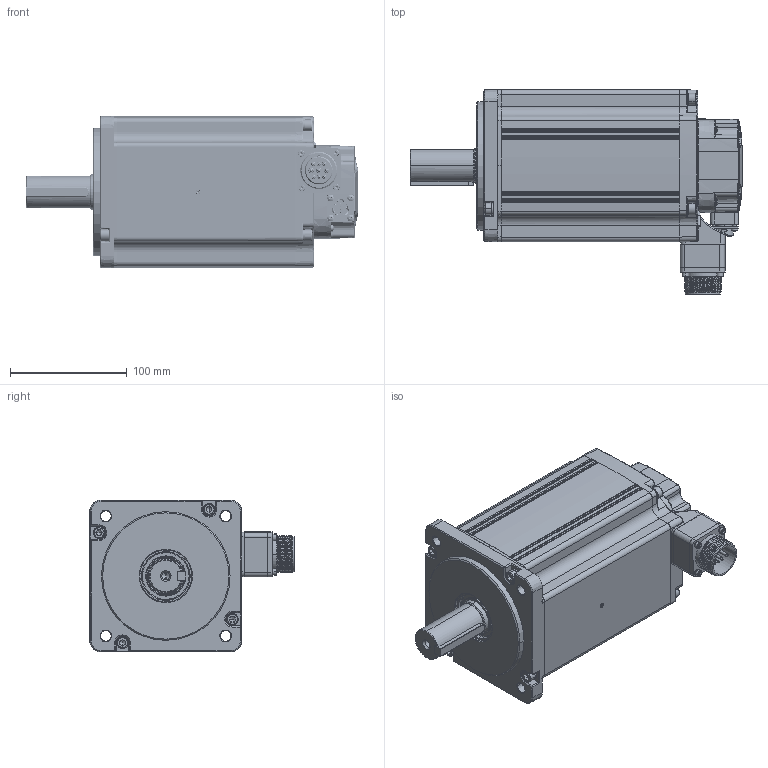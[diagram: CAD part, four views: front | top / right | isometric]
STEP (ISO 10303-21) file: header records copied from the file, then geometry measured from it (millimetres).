
FILE_DESCRIPTION (( 'STEP AP203' ), '1' );
FILE_NAME ('MXL-40D1330LA224.STEP', '2022-07-27T05:42:16', ( '' ), ( '' ), 'SwSTEP 2.0', 'SolidWorks 2018', '' );
FILE_SCHEMA (( 'CONFIG_CONTROL_DESIGN' ));
Products named in the file (1): MXL-40D1330LA224
Bounding box: 284 x 174.95 x 130 mm (x, y, z)
Volume: 2970829.3 mm3; surface area: 250568.4 mm2
Topology: 9 solids, 49 shells, 4759 faces, 12563 edges, 7968 vertices
Faces by surface type: plane 1746, bspline 1169, cylinder 1151, cone 503, torus 138, sphere 52
Entity records: 180570 total; most frequent: CARTESIAN_POINT 71396, ORIENTED_EDGE 24860, DIRECTION 19684, EDGE_CURVE 12430, VERTEX_POINT 7965, AXIS2_PLACEMENT_3D 7171, LINE 5342, VECTOR 5342
